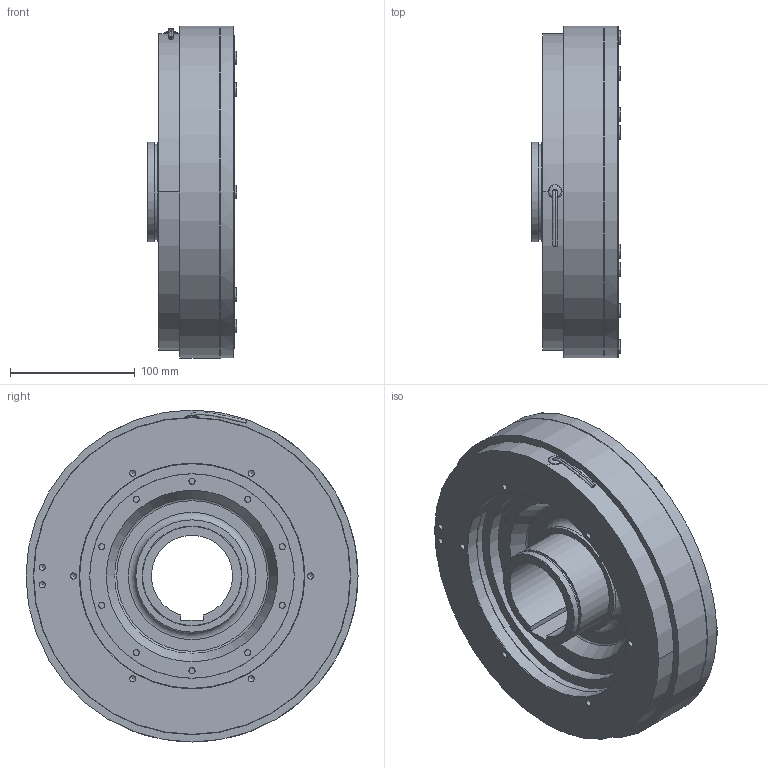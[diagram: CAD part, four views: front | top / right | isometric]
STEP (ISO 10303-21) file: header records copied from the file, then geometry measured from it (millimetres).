
FILE_DESCRIPTION(/* description */ (''),/* implementation_level */ '2;1');
FILE_NAME(/* name */ 'X:\INVENTOR\DISEGNI\08_Freni_Friz_Elettmag_Monodisco\08_26 EMSL_DF\EMSL_DF STEP\08_26_260_21 EMSL260_DF-BM@STEP.stp',/* time_stamp */ '2018-04-24T08:29:08+02:00',/* author */ ('stefano'),/* organization */ (''),/* preprocessor_version */ 'ST-DEVELOPER v17',/* originating_system */ 'Autodesk Inventor 2018',/* authorisation */ '');
FILE_SCHEMA (('AUTOMOTIVE_DESIGN { 1 0 10303 214 3 1 1 }'));
Length unit declared in the file: millimetre
Products named in the file (1): 08_26_260_21 EMSL260_DF-BM_Substitute_1
Bounding box: 71.5 x 266 x 266 mm (x, y, z)
Volume: 2089005.7 mm3; surface area: 434616.8 mm2
Topology: 3 solids, 3 shells, 555 faces, 1589 edges, 1067 vertices
Faces by surface type: cylinder 290, plane 156, cone 92, torus 14, bspline 3
Full cylindrical faces by diameter (mm): 2 x12, 4 x1, 4.917 x18, 7 x12, 7.1 x24, 8.1 x6, 10 x10, 11 x37, 76.5 x1, 80 x2, 90 x1, 138 x1, 163.8 x1, 164 x1, 166 x1, 170 x1, 180 x2, 180.6 x1, 194 x1, 243 x1, 254.3 x1, 266 x2
Entity records: 19636 total; most frequent: CARTESIAN_POINT 3752, DIRECTION 3550, ORIENTED_EDGE 3120, EDGE_CURVE 1560, AXIS2_PLACEMENT_3D 1517, VERTEX_POINT 1067, CIRCLE 964, EDGE_LOOP 705
